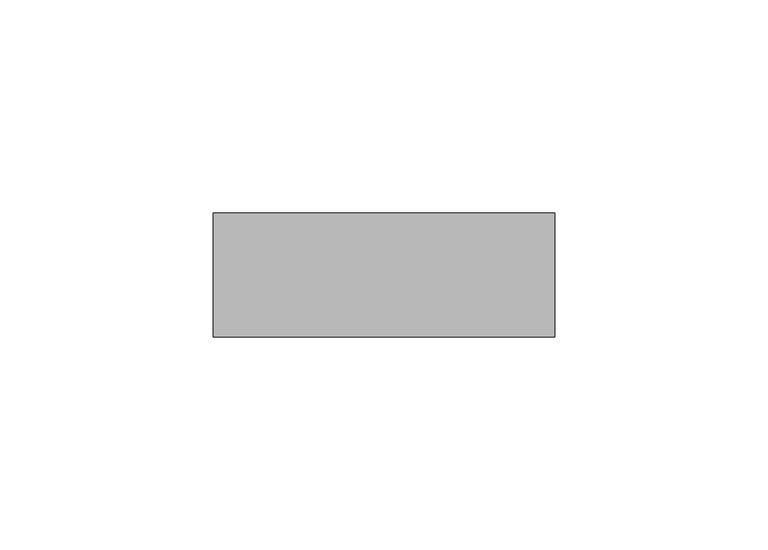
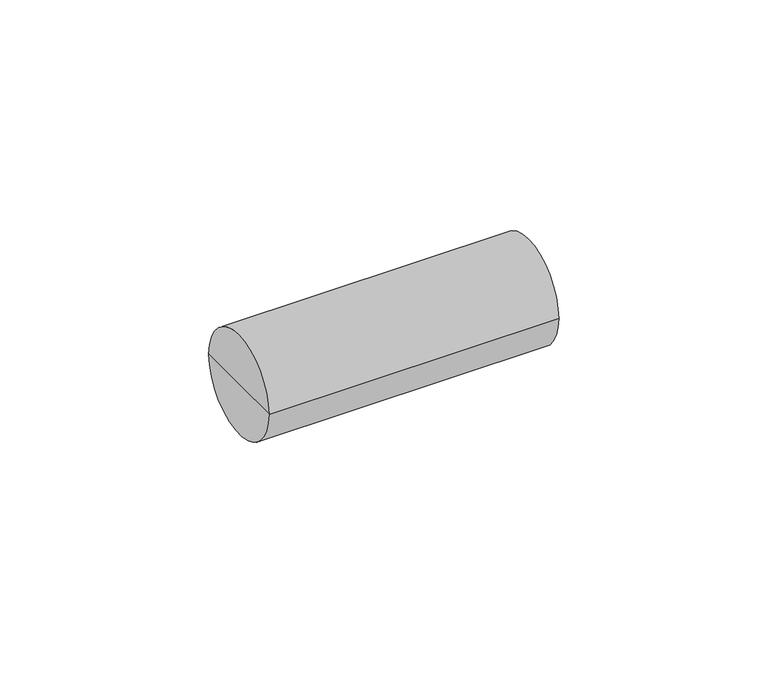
"""IFC4 building model written with IfcOpenShell, lengths in millimetres: cable carrier fitting geometry, Муфта прямая труба-труба армированная IP65 GA : CTA10D-GA25-K41-025."""

import ifcopenshell
import ifcopenshell.guid

model = None  # the IFC model being written
_history = None  # IfcOwnerHistory: only IFC2X3 demands one
_inside = {}  # id of a spatial element -> (the spatial element, [elements in it])
_under = {}  # id of a project, library or spatial element -> (it, [spatial elements below it])
_declared = {}  # id of a project -> (the project, [libraries it declares])
_typed = {}  # id of a type object -> (the type object, [elements of that type])
_made_of = {}  # id of a material, layer set ... -> (it, [elements and type objects made of it])


def new_model(schema):
    """Start an empty IFC model of exactly this schema.

    Asked for "IFC4X3", IfcOpenShell would pick the latest addendum, in which some entities
    have other attributes; the version numbers below select the first issue.
    IFC2X3 requires an IfcOwnerHistory on every rooted entity: one is made here for all.
    """
    global model, _history
    if schema == "IFC4X3":
        model = ifcopenshell.file(schema_version=(4, 3, 0, 0))
    else:
        model = ifcopenshell.file(schema=schema)
    _inside.clear()
    _under.clear()
    _declared.clear()
    _typed.clear()
    _made_of.clear()
    _history = None
    if model.schema == "IFC2X3":
        org = make("IfcOrganization", Name="unknown")
        user = make(
            "IfcPersonAndOrganization",
            ThePerson=make("IfcPerson", FamilyName="unknown"),
            TheOrganization=org,
        )
        app = make(
            "IfcApplication",
            ApplicationDeveloper=org,
            Version="unknown",
            ApplicationFullName="unknown",
            ApplicationIdentifier="unknown",
        )
        _history = make(
            "IfcOwnerHistory",
            OwningUser=user,
            OwningApplication=app,
            ChangeAction="ADDED",
            CreationDate=0,
        )
    return model


def make(cls, **values):
    """One entity of the class cls with the attributes given. An attribute that is None is left unset."""
    return model.create_entity(
        cls, **{name: value for name, value in values.items() if value is not None}
    )


def rooted(cls, **values):
    """An entity with a GlobalId (a new one), such as an element, a storey or a relation."""
    return make(cls, GlobalId=ifcopenshell.guid.new(), OwnerHistory=_history, **values)


def si_unit(unit_type, name, prefix=None):
    """IfcSIUnit, for example si_unit("LENGTHUNIT", "METRE", prefix="MILLI")."""
    return make("IfcSIUnit", UnitType=unit_type, Prefix=prefix, Name=name)


def assignment(units):
    """IfcUnitAssignment: the units of a project."""
    return None if units is None else make("IfcUnitAssignment", Units=units)


def point(xyz):
    """IfcCartesianPoint."""
    return None if xyz is None else make("IfcCartesianPoint", Coordinates=xyz)


def direction(xyz):
    """IfcDirection."""
    return None if xyz is None else make("IfcDirection", DirectionRatios=xyz)


def frame(location, z_axis=None, x_axis=None):
    """IfcAxis2Placement3D, a coordinate frame: its origin and axes. An axis left out is left unset."""
    return make(
        "IfcAxis2Placement3D",
        Location=point(location),
        Axis=direction(z_axis),
        RefDirection=direction(x_axis),
    )


def origin():
    """The frame at (0, 0, 0) with its axes left unset."""
    return frame((0.0, 0.0, 0.0))


def place(relative_to, where):
    """IfcLocalPlacement: puts the frame where relative to a parent placement (None: the world)."""
    return make(
        "IfcLocalPlacement", PlacementRelTo=relative_to, RelativePlacement=where
    )


def context(
    kind, dimensions, precision=None, world=None, true_north=None, identifier=None
):
    """IfcGeometricRepresentationContext, for example the 3D "Model" context."""
    return make(
        "IfcGeometricRepresentationContext",
        ContextIdentifier=identifier,
        ContextType=kind,
        CoordinateSpaceDimension=dimensions,
        Precision=precision,
        WorldCoordinateSystem=world,
        TrueNorth=true_north,
    )


def project(units=None, contexts=None):
    """IfcProject with its units and contexts."""
    return rooted(
        "IfcProject",
        Name="project",
        RepresentationContexts=contexts,
        UnitsInContext=assignment(units),
    )


def spatial(cls, under=None, at=None, **own):
    """A site, building, storey or space (cls), placed at a placement, below another one or the project."""
    s = rooted(cls, ObjectPlacement=at, **own)
    if under is not None:
        _under.setdefault(under.id(), (under, []))[1].append(s)
    return s


def circle_curve(where, radius):
    """IfcCircle in the frame where."""
    return make("IfcCircle", Position=where, Radius=radius)


def shape(context_of_items, identifier, shape_type, items):
    """IfcShapeRepresentation: the items that make up one representation, for example the "Body"."""
    return make(
        "IfcShapeRepresentation",
        ContextOfItems=context_of_items,
        RepresentationIdentifier=identifier,
        RepresentationType=shape_type,
        Items=items,
    )


def source(mapping_origin, context_of_items, identifier, shape_type, items):
    """IfcRepresentationMap: a shape defined once, which mapped items show again and again."""
    return make(
        "IfcRepresentationMap",
        MappingOrigin=mapping_origin,
        MappedRepresentation=shape(context_of_items, identifier, shape_type, items),
    )


def transform(
    local_origin,
    x_axis=None,
    y_axis=None,
    z_axis=None,
    scale=None,
    scale2=None,
    scale3=None,
    uniform=True,
):
    """IfcCartesianTransformationOperator3D, or its non-uniform kind. x_axis, y_axis, z_axis: its Axis1, 2, 3."""
    if uniform:
        return make(
            "IfcCartesianTransformationOperator3D",
            Axis1=direction(x_axis),
            Axis2=direction(y_axis),
            LocalOrigin=point(local_origin),
            Scale=scale,
            Axis3=direction(z_axis),
        )
    return make(
        "IfcCartesianTransformationOperator3DnonUniform",
        Axis1=direction(x_axis),
        Axis2=direction(y_axis),
        LocalOrigin=point(local_origin),
        Scale=scale,
        Axis3=direction(z_axis),
        Scale2=scale2,
        Scale3=scale3,
    )


def mapped(mapping_source, mapping_target):
    """IfcMappedItem: shows the shape of a source again, moved by a transform."""
    return make(
        "IfcMappedItem", MappingSource=mapping_source, MappingTarget=mapping_target
    )


def made_of(thing, what):
    """Note that an element or type object is made of a material, layer set ...; save() writes the relation."""
    if what is not None:
        _made_of.setdefault(what.id(), (what, []))[1].append(thing)
    return thing


def element(
    cls,
    number,
    at=None,
    inside=None,
    cuts=None,
    type_object=None,
    material=None,
    context=None,
    identifier="Body",
    shape_type=None,
    held_by="IfcProductDefinitionShape",
    body=None,
    shapes=None,
    **own,
):
    """One element of the class cls, such as IfcWall. Its Tag is "e" and its number.

    at: its placement. inside: the storey or other place that contains it. cuts: it is an
    opening in that element (IfcRelVoidsElement). A single representation is given by context,
    identifier, shape_type and body (its items); several are given by shapes. held_by: the class
    of the entity that holds the representations. save() writes the other relations.
    """
    e = rooted(cls, Tag="e%d" % number, ObjectPlacement=at, **own)
    if body is not None:
        shapes = [shape(context, identifier, shape_type, body)]
    if shapes is not None:
        e.Representation = make(held_by, Representations=shapes)
    if inside is not None:
        _inside.setdefault(inside.id(), (inside, []))[1].append(e)
    if cuts is not None:
        rooted(
            "IfcRelVoidsElement", RelatingBuildingElement=cuts, RelatedOpeningElement=e
        )
    if type_object is not None:
        _typed.setdefault(type_object.id(), (type_object, []))[1].append(e)
    return made_of(e, material)


def aggregate(whole, parts):
    """IfcRelAggregates: a whole, such as a stair, and the parts it consists of."""
    return rooted("IfcRelAggregates", RelatingObject=whole, RelatedObjects=parts)


def save(model, path):
    """Write the relations noted so far, then the file.

    IfcRelAggregates (storeys below a building ...), IfcRelContainedInSpatialStructure (elements
    in a storey), IfcRelDefinesByType, IfcRelAssociatesMaterial and IfcRelDeclares: one each for
    every whole, place, type object, material and project.
    """
    for whole, parts in _under.values():
        aggregate(whole, parts)
    for where, things in _inside.values():
        rooted(
            "IfcRelContainedInSpatialStructure",
            RelatedElements=things,
            RelatingStructure=where,
        )
    for kind, things in _typed.values():
        rooted("IfcRelDefinesByType", RelatedObjects=things, RelatingType=kind)
    for what, things in _made_of.values():
        rooted("IfcRelAssociatesMaterial", RelatedObjects=things, RelatingMaterial=what)
    for by, libraries in _declared.values():
        rooted("IfcRelDeclares", RelatingContext=by, RelatedDefinitions=libraries)
    model.write(path)


def plane_surface(at):
    """IfcPlane: the flat surface through the origin of the frame at, square to its z axis."""
    return make("IfcPlane", Position=at)


def cylinder_surface(at, radius):
    """IfcCylindricalSurface: all points at the distance radius from the z axis of the frame at."""
    return make("IfcCylindricalSurface", Position=at, Radius=radius)


def advanced_brep(points, edges, surfaces, faces):
    """IfcAdvancedBrep: a solid bounded by faces that lie on surfaces and meet in shared edges.

    An edge is (start, end): straight between two places in points (the first is 0);
    or (start, end, curve); or (start, end, curve, False) where it runs against its curve.
    A face is (place in surfaces, loops), or (place, loops, False) where it looks against
    its surface's normal. A loop lists edges by number (the first is 1), with a minus sign
    where the edge is run from its end to its start. The first loop is the outer one.
    """
    corners = [point(p) for p in points]
    vertices = [make("IfcVertexPoint", VertexGeometry=c) for c in corners]
    made = []
    for start, end, *more in edges:
        made.append(
            make(
                "IfcEdgeCurve",
                EdgeStart=vertices[start],
                EdgeEnd=vertices[end],
                EdgeGeometry=more[0] if more else make("IfcPolyline", Points=[corners[start], corners[end]]),
                SameSense=more[1] if len(more) > 1 else True,
            )
        )
    hull = []
    for where, loops, *sense in faces:
        bounds = []
        for j, loop in enumerate(loops):
            ring = [make("IfcOrientedEdge", EdgeElement=made[abs(k) - 1], Orientation=k > 0) for k in loop]
            bounds.append(
                make(
                    "IfcFaceOuterBound" if j == 0 else "IfcFaceBound",
                    Bound=make("IfcEdgeLoop", EdgeList=ring),
                    Orientation=True,
                )
            )
        hull.append(make("IfcAdvancedFace", Bounds=bounds, FaceSurface=surfaces[where], SameSense=sense[0] if sense else True))
    return make("IfcAdvancedBrep", Outer=make("IfcClosedShell", CfsFaces=hull))


def cable_carrier_fitting_cf1a74b0(model_context):
    return source(origin(), model_context, "Body", "AdvancedBrep", [
        advanced_brep(
        [(-40.0, -14.5, 0.0), (-40.0, 14.5, 0.0), (40.0, 14.5, 0.0), (40.0, -14.5, 0.0), (-40.0, 0.0, 0.0), (40.0, 0.0, 0.0)],
        [
            (0, 1, circle_curve(frame((-40.0, 0.0, 0.0), z_axis=(1.0, 0.0, 0.0), x_axis=(0.0, 1.0, 0.0)), 14.5)),
            (1, 2),
            (2, 3, circle_curve(frame((40.0, 0.0, 0.0), z_axis=(-1.0, 0.0, 0.0), x_axis=(0.0, 1.0, 0.0)), 14.5)),
            (3, 0),
            (1, 0, circle_curve(frame((-40.0, 0.0, 0.0), z_axis=(1.0, 0.0, 0.0), x_axis=(0.0, 1.0, 0.0)), 14.5)),
            (3, 2, circle_curve(frame((40.0, 0.0, 0.0), z_axis=(-1.0, 0.0, 0.0), x_axis=(0.0, 1.0, 0.0)), 14.5)),
            (4, 1),
            (0, 4),
            (2, 5),
            (5, 3),
        ],
        [
            cylinder_surface(frame((1965.0, 0.0, 0.0), z_axis=(-1.0, 0.0, 0.0), x_axis=(0.0, 1.0, 0.0)), 14.5),
            plane_surface(frame((-40.0, 0.0, 0.0), z_axis=(-1.0, 0.0, 0.0), x_axis=(0.0, 1.0, 0.0))),
            plane_surface(frame((40.0, 0.0, 0.0), z_axis=(1.0, 0.0, 0.0), x_axis=(0.0, 1.0, 0.0))),
        ],
        [
            (0, [[1, 2, 3, 4]]),
            (0, [[5, -4, 6, -2]]),
            (1, [[7, -1, 8]]),
            (1, [[-8, -5, -7]]),
            (2, [[-3, 9, 10]]),
            (2, [[-6, -10, -9]]),
        ],
    ),
    ])


if __name__ == "__main__":
    model = new_model("IFC4")
    model_context = context("Model", 3, world=origin())
    ifc_project = project(units=[si_unit("LENGTHUNIT", "METRE", prefix="MILLI")], contexts=[model_context])
    site = spatial("IfcSite", under=ifc_project)
    building = spatial("IfcBuilding", under=site)
    placement = place(None, origin())
    cable_carrier_fitting_shape = cable_carrier_fitting_cf1a74b0(model_context)
    element("IfcCableCarrierFitting", 1, ObjectType="Муфта прямая труба-труба армированная IP65 GA : CTA10D-GA25-K41-025", at=placement, inside=building, context=model_context, shape_type="MappedRepresentation", body=[
        mapped(cable_carrier_fitting_shape, transform((0.0, 0.0, 0.0), x_axis=(1.0, 0.0, 0.0), y_axis=(0.0, 1.0, 0.0), z_axis=(0.0, 0.0, 1.0))),
    ])
    save(model, "model.ifc")
